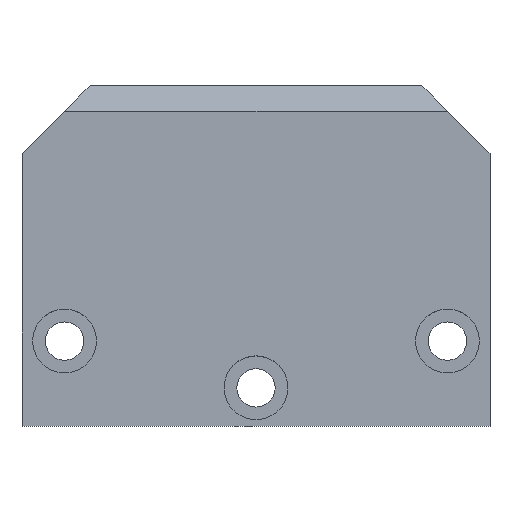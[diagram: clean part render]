
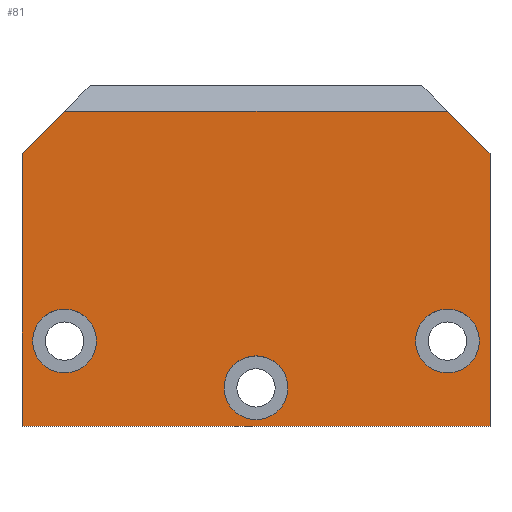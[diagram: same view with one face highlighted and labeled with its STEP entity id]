
A CAD part, top view. The second image highlights one B-rep face of the part: STEP entity #81.
In plain terms, the highlighted planar face has unit normal (0, 0, 1).
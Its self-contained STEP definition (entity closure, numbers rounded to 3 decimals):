
#5 = VERTEX_POINT ( 'NONE', #48 ) ;
#16 = VECTOR ( 'NONE', #579, 1000. ) ;
#17 = VERTEX_POINT ( 'NONE', #409 ) ;
#19 = VERTEX_POINT ( 'NONE', #295 ) ;
#20 = CARTESIAN_POINT ( 'NONE',  ( 22.5, 37., 0. ) ) ;
#28 = ORIENTED_EDGE ( 'NONE', *, *, #350, .F. ) ;
#38 = VERTEX_POINT ( 'NONE', #231 ) ;
#40 = CARTESIAN_POINT ( 'NONE',  ( 3.75, 4.5, 0. ) ) ;
#45 = VECTOR ( 'NONE', #481, 1000. ) ;
#48 = CARTESIAN_POINT ( 'NONE',  ( -22.5, 37., 0. ) ) ;
#51 = ORIENTED_EDGE ( 'NONE', *, *, #228, .T. ) ;
#53 = EDGE_LOOP ( 'NONE', ( #546 ) ) ;
#62 = ORIENTED_EDGE ( 'NONE', *, *, #557, .T. ) ;
#64 = FACE_BOUND ( 'NONE', #53, .T. ) ;
#67 = CARTESIAN_POINT ( 'NONE',  ( -22.5, 10., 0. ) ) ;
#68 = LINE ( 'NONE', #567, #351 ) ;
#74 = LINE ( 'NONE', #175, #16 ) ;
#79 = EDGE_CURVE ( 'NONE', #17, #17, #134, .T. ) ;
#81 = ADVANCED_FACE ( 'NONE', ( #107, #569, #64, #365 ), #367, .F. ) ;
#97 = CIRCLE ( 'NONE', #135, 3.75 ) ;
#107 = FACE_BOUND ( 'NONE', #273, .T. ) ;
#124 = AXIS2_PLACEMENT_3D ( 'NONE', #246, #436, #347 ) ;
#126 = DIRECTION ( 'NONE',  ( 0., 0., -1. ) ) ;
#131 = VERTEX_POINT ( 'NONE', #20 ) ;
#132 = DIRECTION ( 'NONE',  ( 0., -1., 0. ) ) ;
#134 = CIRCLE ( 'NONE', #287, 3.75 ) ;
#135 = AXIS2_PLACEMENT_3D ( 'NONE', #243, #395, #502 ) ;
#142 = EDGE_LOOP ( 'NONE', ( #578, #62, #51, #453, #471, #28 ) ) ;
#151 = EDGE_CURVE ( 'NONE', #5, #38, #68, .T. ) ;
#175 = CARTESIAN_POINT ( 'NONE',  ( 27.5, 37., 0. ) ) ;
#181 = VERTEX_POINT ( 'NONE', #40 ) ;
#184 = ORIENTED_EDGE ( 'NONE', *, *, #401, .F. ) ;
#203 = CARTESIAN_POINT ( 'NONE',  ( 27.5, 37., 0. ) ) ;
#207 = DIRECTION ( 'NONE',  ( -0.707, 0.707, 0. ) ) ;
#209 = VECTOR ( 'NONE', #207, 1000. ) ;
#225 = LINE ( 'NONE', #276, #209 ) ;
#228 = EDGE_CURVE ( 'NONE', #131, #5, #74, .T. ) ;
#231 = CARTESIAN_POINT ( 'NONE',  ( -27.5, 32., 0. ) ) ;
#243 = CARTESIAN_POINT ( 'NONE',  ( 22.5, 10., 0. ) ) ;
#246 = CARTESIAN_POINT ( 'NONE',  ( 0., 4.5, 0. ) ) ;
#261 = DIRECTION ( 'NONE',  ( 0., -1., 0. ) ) ;
#268 = VERTEX_POINT ( 'NONE', #485 ) ;
#273 = EDGE_LOOP ( 'NONE', ( #184 ) ) ;
#276 = CARTESIAN_POINT ( 'NONE',  ( 27.5, 32., 0. ) ) ;
#287 = AXIS2_PLACEMENT_3D ( 'NONE', #67, #538, #345 ) ;
#295 = CARTESIAN_POINT ( 'NONE',  ( 27.5, 32., 0. ) ) ;
#314 = LINE ( 'NONE', #600, #628 ) ;
#315 = DIRECTION ( 'NONE',  ( -0.707, -0.707, 0. ) ) ;
#320 = CARTESIAN_POINT ( 'NONE',  ( 27.5, 0., 0. ) ) ;
#345 = DIRECTION ( 'NONE',  ( 1., 0., 0. ) ) ;
#347 = DIRECTION ( 'NONE',  ( 1., 0., 0. ) ) ;
#350 = EDGE_CURVE ( 'NONE', #268, #426, #419, .T. ) ;
#351 = VECTOR ( 'NONE', #315, 1000. ) ;
#357 = LINE ( 'NONE', #504, #361 ) ;
#361 = VECTOR ( 'NONE', #132, 1000. ) ;
#365 = FACE_OUTER_BOUND ( 'NONE', #142, .T. ) ;
#367 = PLANE ( 'NONE',  #496 ) ;
#373 = CIRCLE ( 'NONE', #124, 3.75 ) ;
#395 = DIRECTION ( 'NONE',  ( 0., 0., 1. ) ) ;
#401 = EDGE_CURVE ( 'NONE', #575, #575, #97, .T. ) ;
#403 = CARTESIAN_POINT ( 'NONE',  ( -27.5, 0., 0. ) ) ;
#407 = EDGE_CURVE ( 'NONE', #181, #181, #373, .T. ) ;
#409 = CARTESIAN_POINT ( 'NONE',  ( -18.75, 10., 0. ) ) ;
#419 = LINE ( 'NONE', #320, #45 ) ;
#426 = VERTEX_POINT ( 'NONE', #403 ) ;
#436 = DIRECTION ( 'NONE',  ( 0., 0., 1. ) ) ;
#453 = ORIENTED_EDGE ( 'NONE', *, *, #151, .T. ) ;
#471 = ORIENTED_EDGE ( 'NONE', *, *, #549, .T. ) ;
#481 = DIRECTION ( 'NONE',  ( -1., 0., 0. ) ) ;
#485 = CARTESIAN_POINT ( 'NONE',  ( 27.5, 0., 0. ) ) ;
#494 = CARTESIAN_POINT ( 'NONE',  ( 26.25, 10., 0. ) ) ;
#496 = AXIS2_PLACEMENT_3D ( 'NONE', #203, #126, #564 ) ;
#502 = DIRECTION ( 'NONE',  ( 1., 0., 0. ) ) ;
#504 = CARTESIAN_POINT ( 'NONE',  ( -27.5, 37., 0. ) ) ;
#506 = EDGE_LOOP ( 'NONE', ( #605 ) ) ;
#538 = DIRECTION ( 'NONE',  ( 0., 0., 1. ) ) ;
#546 = ORIENTED_EDGE ( 'NONE', *, *, #79, .F. ) ;
#549 = EDGE_CURVE ( 'NONE', #38, #426, #357, .T. ) ;
#557 = EDGE_CURVE ( 'NONE', #19, #131, #225, .T. ) ;
#564 = DIRECTION ( 'NONE',  ( 0., 1., 0. ) ) ;
#567 = CARTESIAN_POINT ( 'NONE',  ( -19.5, 40., 0. ) ) ;
#569 = FACE_BOUND ( 'NONE', #506, .T. ) ;
#575 = VERTEX_POINT ( 'NONE', #494 ) ;
#578 = ORIENTED_EDGE ( 'NONE', *, *, #597, .F. ) ;
#579 = DIRECTION ( 'NONE',  ( -1., 0., 0. ) ) ;
#597 = EDGE_CURVE ( 'NONE', #19, #268, #314, .T. ) ;
#600 = CARTESIAN_POINT ( 'NONE',  ( 27.5, 37., 0. ) ) ;
#605 = ORIENTED_EDGE ( 'NONE', *, *, #407, .F. ) ;
#628 = VECTOR ( 'NONE', #261, 1000. ) ;
